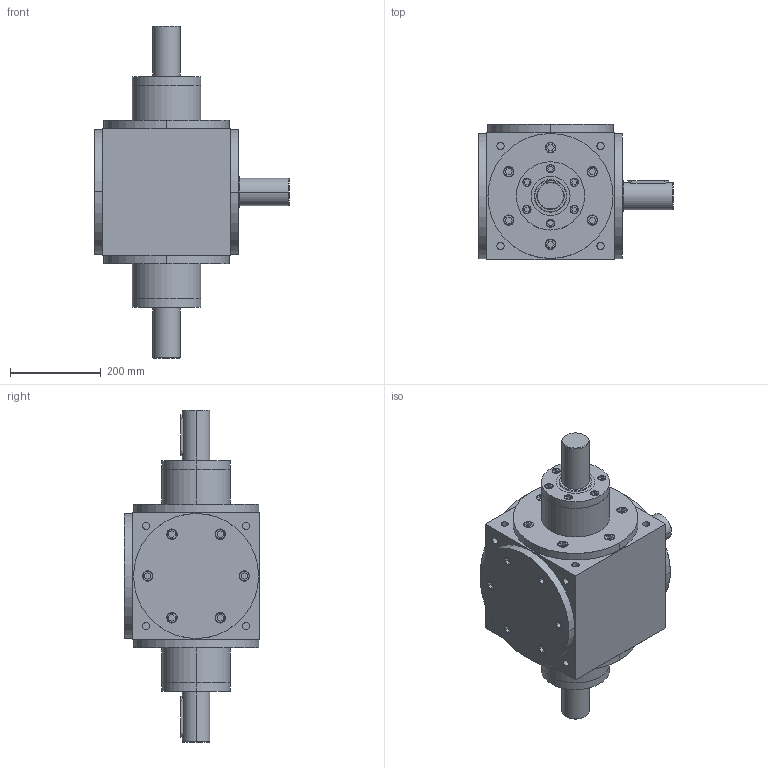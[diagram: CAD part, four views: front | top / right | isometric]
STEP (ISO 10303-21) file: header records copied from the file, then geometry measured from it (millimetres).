
FILE_DESCRIPTION (( 'STEP AP203' ), '1' );
FILE_NAME ('VSAF28-1£º1-K.step', '2018-07-14T09:13:55', ( 'IT Division' ), ( 'IT' ), 'SwSTEP 2.0', 'SolidWorks 2016', '' );
FILE_SCHEMA (( 'CONFIG_CONTROL_DESIGN' ));
Length unit declared in the file: millimetre
Products named in the file (1): VSAF28-1ㄩ1-K
Bounding box: 428 x 298 x 730 mm (x, y, z)
Volume: 31464108.2 mm3; surface area: 822178.5 mm2
Topology: 2 solids, 2 shells, 885 faces, 1975 edges, 1230 vertices
Faces by surface type: plane 435, cylinder 336, torus 94, cone 12, sphere 8
Entity records: 24740 total; most frequent: CARTESIAN_POINT 4721, DIRECTION 4367, ORIENTED_EDGE 3934, EDGE_CURVE 1967, AXIS2_PLACEMENT_3D 1648, VERTEX_POINT 1230, LINE 1071, VECTOR 1071
